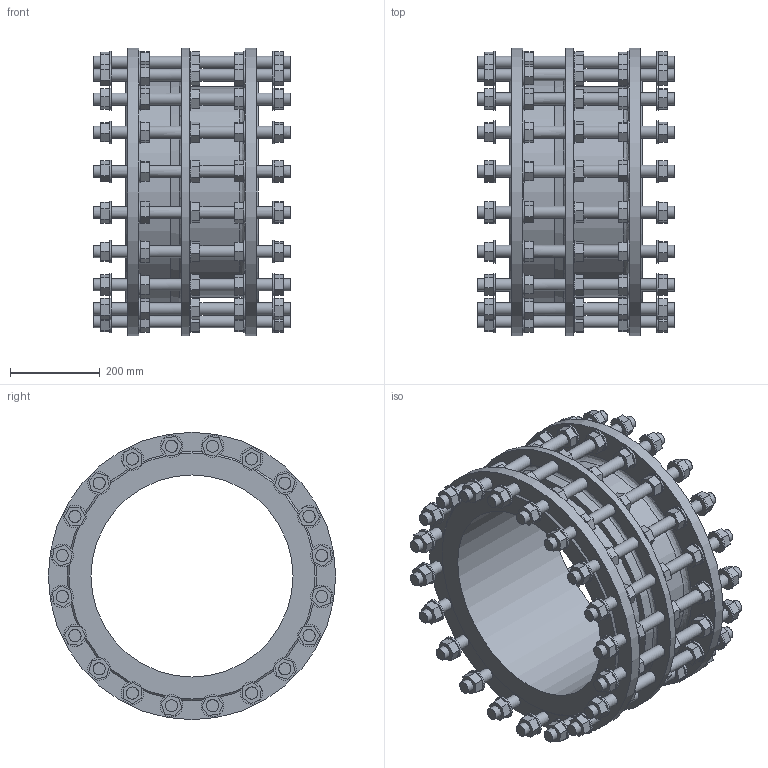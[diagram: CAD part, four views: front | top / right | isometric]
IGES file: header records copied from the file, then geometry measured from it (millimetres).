
Start section: SolidWorks IGES file using analytic representation for surfaces
Global section: file name: \\avksan2\techshare\PBM outline export from Enovia\O_265_910_DN450_1XXXXX00_L=295_REV01.igs; native system: SolidWorks 2022; preprocessor: SolidWorks 2022; author: pbm; date: 241011.123852; units: millimetre
Bounding box: 440 x 640 x 640 mm (x, y, z)
Surface area: 2589628.8 mm2 (no closed solid volume)
Topology: 0 solids, 0 shells, 1161 faces, 5193 edges, 4962 vertices
Faces by surface type: bspline 928, revolution 233
